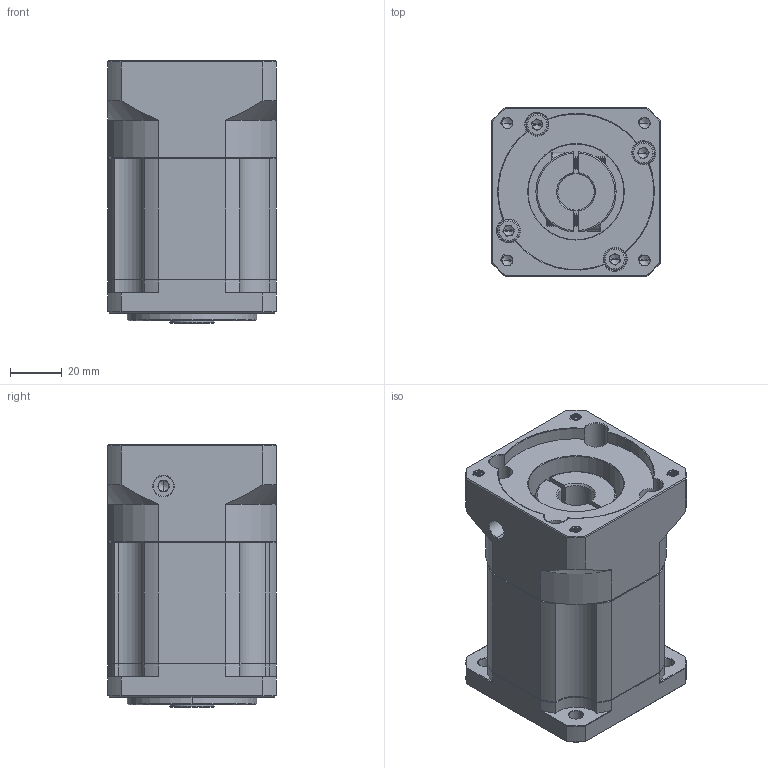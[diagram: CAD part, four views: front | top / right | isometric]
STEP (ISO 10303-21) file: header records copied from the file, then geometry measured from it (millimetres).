
FILE_DESCRIPTION (( 'STEP AP214' ), '1' );
FILE_NAME ('ZB060-K10-L2-P2-14-60-75-M5.step', '2023-08-16T07:11:29', ( '' ), ( '' ), 'SwSTEP 2.0', 'SolidWorks 2016', '' );
FILE_SCHEMA (( 'AUTOMOTIVE_DESIGN' ));
Length unit declared in the file: millimetre
Products named in the file (1): ZB060-K10-L2-P2-14-60-75-M5
Bounding box: 65 x 65 x 101.5 mm (x, y, z)
Volume: 318273.7 mm3; surface area: 57498.1 mm2
Topology: 6 solids, 6 shells, 2119 faces, 5709 edges, 3677 vertices
Faces by surface type: plane 1056, bspline 390, cylinder 357, cone 282, torus 34
Entity records: 112204 total; most frequent: CARTESIAN_POINT 38538, ORIENTED_EDGE 11362, DIRECTION 9044, EDGE_CURVE 5681, VERTEX_POINT 3677, VECTOR 3610, LINE 3610, AXIS2_PLACEMENT_3D 2717
